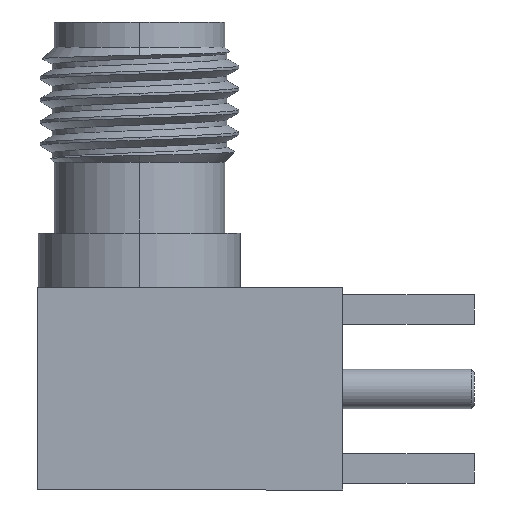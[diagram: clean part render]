
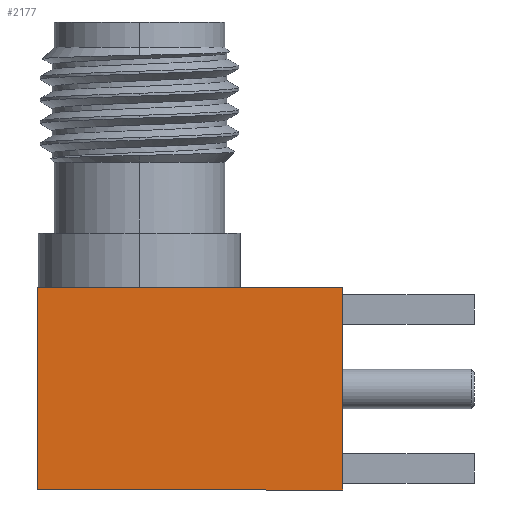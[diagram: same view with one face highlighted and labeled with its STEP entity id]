
A CAD part, left-side view. The second image highlights one B-rep face of the part: STEP entity #2177.
In plain terms, the highlighted planar face has unit normal (-1, 0, 0).
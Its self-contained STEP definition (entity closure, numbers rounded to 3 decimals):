
#51 = AXIS2_PLACEMENT_3D ( 'NONE', #1327, #73, #697 ) ;
#53 = LINE ( 'NONE', #1881, #2895 ) ;
#73 = DIRECTION ( 'NONE',  ( 1., 0., 0. ) ) ;
#153 = VERTEX_POINT ( 'NONE', #2676 ) ;
#257 = VECTOR ( 'NONE', #3550, 1000. ) ;
#475 = CARTESIAN_POINT ( 'NONE',  ( -3.23, 0., 3.23 ) ) ;
#492 = EDGE_LOOP ( 'NONE', ( #588, #1353, #3583, #1458, #1580 ) ) ;
#588 = ORIENTED_EDGE ( 'NONE', *, *, #1311, .F. ) ;
#697 = DIRECTION ( 'NONE',  ( 0., 0., -1. ) ) ;
#760 = CARTESIAN_POINT ( 'NONE',  ( -3.23, 0., 3.23 ) ) ;
#779 = LINE ( 'NONE', #760, #3132 ) ;
#835 = EDGE_CURVE ( 'NONE', #153, #3822, #1153, .T. ) ;
#992 = VERTEX_POINT ( 'NONE', #1298 ) ;
#1052 = DIRECTION ( 'NONE',  ( 0., 1., 0. ) ) ;
#1153 = LINE ( 'NONE', #2353, #257 ) ;
#1298 = CARTESIAN_POINT ( 'NONE',  ( -3.23, 9.75, 3.23 ) ) ;
#1303 = CARTESIAN_POINT ( 'NONE',  ( -3.23, 9.75, 3.23 ) ) ;
#1311 = EDGE_CURVE ( 'NONE', #2011, #2642, #3093, .T. ) ;
#1327 = CARTESIAN_POINT ( 'NONE',  ( -3.23, 0., 0. ) ) ;
#1353 = ORIENTED_EDGE ( 'NONE', *, *, #2466, .F. ) ;
#1458 = ORIENTED_EDGE ( 'NONE', *, *, #3242, .F. ) ;
#1544 = LINE ( 'NONE', #1303, #3205 ) ;
#1580 = ORIENTED_EDGE ( 'NONE', *, *, #3284, .F. ) ;
#1597 = CARTESIAN_POINT ( 'NONE',  ( -3.23, 9.75, -3.23 ) ) ;
#1881 = CARTESIAN_POINT ( 'NONE',  ( -3.23, 9.75, 3.23 ) ) ;
#2011 = VERTEX_POINT ( 'NONE', #2877 ) ;
#2177 = ADVANCED_FACE ( 'NONE', ( #2478 ), #3085, .F. ) ;
#2353 = CARTESIAN_POINT ( 'NONE',  ( -3.23, 9.75, 3.23 ) ) ;
#2466 = EDGE_CURVE ( 'NONE', #3822, #2011, #779, .T. ) ;
#2478 = FACE_OUTER_BOUND ( 'NONE', #492, .T. ) ;
#2642 = VERTEX_POINT ( 'NONE', #3305 ) ;
#2676 = CARTESIAN_POINT ( 'NONE',  ( -3.23, 6.5, 3.23 ) ) ;
#2877 = CARTESIAN_POINT ( 'NONE',  ( -3.23, 0., -3.23 ) ) ;
#2895 = VECTOR ( 'NONE', #3353, 1000. ) ;
#2913 = VECTOR ( 'NONE', #1052, 1000. ) ;
#3043 = DIRECTION ( 'NONE',  ( 0., -1., 0. ) ) ;
#3085 = PLANE ( 'NONE',  #51 ) ;
#3093 = LINE ( 'NONE', #1597, #2913 ) ;
#3132 = VECTOR ( 'NONE', #3791, 1000. ) ;
#3205 = VECTOR ( 'NONE', #3043, 1000. ) ;
#3242 = EDGE_CURVE ( 'NONE', #992, #153, #1544, .T. ) ;
#3284 = EDGE_CURVE ( 'NONE', #2642, #992, #53, .T. ) ;
#3305 = CARTESIAN_POINT ( 'NONE',  ( -3.23, 9.75, -3.23 ) ) ;
#3353 = DIRECTION ( 'NONE',  ( 0., 0., 1. ) ) ;
#3550 = DIRECTION ( 'NONE',  ( 0., -1., 0. ) ) ;
#3583 = ORIENTED_EDGE ( 'NONE', *, *, #835, .F. ) ;
#3791 = DIRECTION ( 'NONE',  ( 0., 0., -1. ) ) ;
#3822 = VERTEX_POINT ( 'NONE', #475 ) ;
